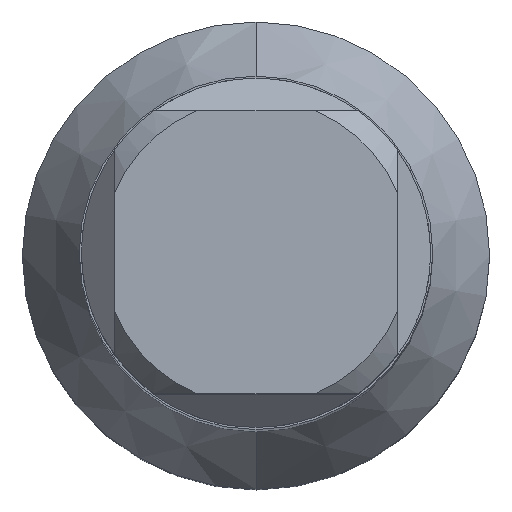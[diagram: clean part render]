
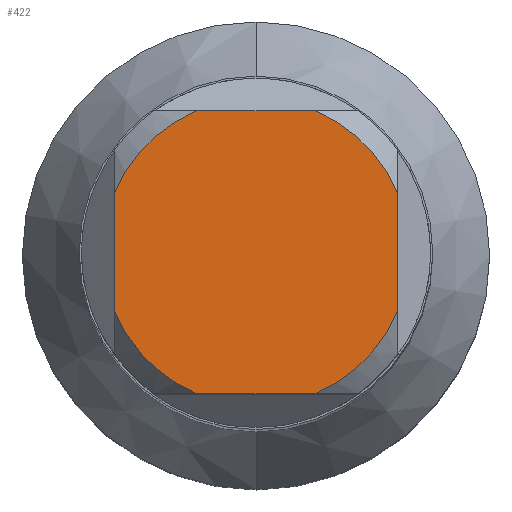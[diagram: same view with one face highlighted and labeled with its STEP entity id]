
A CAD part, top view. The second image highlights one B-rep face of the part: STEP entity #422.
In plain terms, the highlighted planar face has unit normal (0, 0, 1).
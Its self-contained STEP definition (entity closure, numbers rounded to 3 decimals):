
#11 = ORIENTED_EDGE ( 'NONE', *, *, #492, .F. ) ;
#32 = DIRECTION ( 'NONE',  ( 0., 0., -1. ) ) ;
#37 = DIRECTION ( 'NONE',  ( 0., 1., 0. ) ) ;
#45 = DIRECTION ( 'NONE',  ( 0., 1., 0. ) ) ;
#47 = CARTESIAN_POINT ( 'NONE',  ( 0., 0., 86. ) ) ;
#71 = AXIS2_PLACEMENT_3D ( 'NONE', #47, #32, #45 ) ;
#92 = VERTEX_POINT ( 'NONE', #573 ) ;
#104 = AXIS2_PLACEMENT_3D ( 'NONE', #435, #459, #853 ) ;
#105 = DIRECTION ( 'NONE',  ( 0., 0., -1. ) ) ;
#124 = CIRCLE ( 'NONE', #839, 8.675 ) ;
#141 = DIRECTION ( 'NONE',  ( 0., 1., 0. ) ) ;
#184 = ORIENTED_EDGE ( 'NONE', *, *, #880, .T. ) ;
#204 = CARTESIAN_POINT ( 'NONE',  ( 0., -8., 86. ) ) ;
#207 = VERTEX_POINT ( 'NONE', #1051 ) ;
#263 = DIRECTION ( 'NONE',  ( 1., 0., 0. ) ) ;
#312 = CARTESIAN_POINT ( 'NONE',  ( -3.355, -8., 86. ) ) ;
#326 = VERTEX_POINT ( 'NONE', #808 ) ;
#372 = PLANE ( 'NONE',  #104 ) ;
#377 = ORIENTED_EDGE ( 'NONE', *, *, #1007, .T. ) ;
#422 = ADVANCED_FACE ( 'NONE', ( #1339 ), #372, .F. ) ;
#435 = CARTESIAN_POINT ( 'NONE',  ( 0., 0., 86. ) ) ;
#459 = DIRECTION ( 'NONE',  ( 0., 0., -1. ) ) ;
#492 = EDGE_CURVE ( 'NONE', #92, #326, #571, .T. ) ;
#505 = CIRCLE ( 'NONE', #1318, 8.675 ) ;
#538 = VECTOR ( 'NONE', #141, 1000. ) ;
#540 = CARTESIAN_POINT ( 'NONE',  ( -8., 0., 86. ) ) ;
#571 = CIRCLE ( 'NONE', #71, 8.675 ) ;
#573 = CARTESIAN_POINT ( 'NONE',  ( 3.355, 8., 86. ) ) ;
#595 = DIRECTION ( 'NONE',  ( 0., -1., 0. ) ) ;
#603 = LINE ( 'NONE', #1126, #538 ) ;
#666 = CARTESIAN_POINT ( 'NONE',  ( -3.355, 8., 86. ) ) ;
#667 = EDGE_CURVE ( 'NONE', #92, #921, #1248, .T. ) ;
#673 = DIRECTION ( 'NONE',  ( 0., 1., 0. ) ) ;
#685 = CARTESIAN_POINT ( 'NONE',  ( 3.355, -8., 86. ) ) ;
#699 = ORIENTED_EDGE ( 'NONE', *, *, #667, .T. ) ;
#705 = EDGE_CURVE ( 'NONE', #906, #207, #1077, .T. ) ;
#749 = LINE ( 'NONE', #540, #1028 ) ;
#757 = AXIS2_PLACEMENT_3D ( 'NONE', #838, #1082, #673 ) ;
#808 = CARTESIAN_POINT ( 'NONE',  ( 8., 3.355, 86. ) ) ;
#838 = CARTESIAN_POINT ( 'NONE',  ( 0., 0., 86. ) ) ;
#839 = AXIS2_PLACEMENT_3D ( 'NONE', #994, #941, #992 ) ;
#853 = DIRECTION ( 'NONE',  ( 0., 1., 0. ) ) ;
#880 = EDGE_CURVE ( 'NONE', #906, #1000, #1213, .T. ) ;
#893 = EDGE_CURVE ( 'NONE', #1297, #326, #603, .T. ) ;
#906 = VERTEX_POINT ( 'NONE', #312 ) ;
#915 = VECTOR ( 'NONE', #263, 1000. ) ;
#921 = VERTEX_POINT ( 'NONE', #666 ) ;
#929 = ORIENTED_EDGE ( 'NONE', *, *, #893, .T. ) ;
#941 = DIRECTION ( 'NONE',  ( 0., 0., -1. ) ) ;
#943 = EDGE_CURVE ( 'NONE', #1091, #921, #124, .T. ) ;
#981 = ORIENTED_EDGE ( 'NONE', *, *, #705, .F. ) ;
#992 = DIRECTION ( 'NONE',  ( 0., 1., 0. ) ) ;
#994 = CARTESIAN_POINT ( 'NONE',  ( 0., 0., 86. ) ) ;
#1000 = VERTEX_POINT ( 'NONE', #685 ) ;
#1007 = EDGE_CURVE ( 'NONE', #1091, #207, #749, .T. ) ;
#1028 = VECTOR ( 'NONE', #595, 1000. ) ;
#1049 = CARTESIAN_POINT ( 'NONE',  ( 0., 8., 86. ) ) ;
#1051 = CARTESIAN_POINT ( 'NONE',  ( -8., -3.355, 86. ) ) ;
#1077 = CIRCLE ( 'NONE', #757, 8.675 ) ;
#1082 = DIRECTION ( 'NONE',  ( 0., 0., -1. ) ) ;
#1085 = ORIENTED_EDGE ( 'NONE', *, *, #943, .F. ) ;
#1088 = DIRECTION ( 'NONE',  ( -1., 0., 0. ) ) ;
#1091 = VERTEX_POINT ( 'NONE', #1156 ) ;
#1126 = CARTESIAN_POINT ( 'NONE',  ( 8., 0., 86. ) ) ;
#1136 = ORIENTED_EDGE ( 'NONE', *, *, #1306, .F. ) ;
#1156 = CARTESIAN_POINT ( 'NONE',  ( -8., 3.355, 86. ) ) ;
#1213 = LINE ( 'NONE', #204, #915 ) ;
#1224 = EDGE_LOOP ( 'NONE', ( #1136, #929, #11, #699, #1085, #377, #981, #184 ) ) ;
#1228 = VECTOR ( 'NONE', #1088, 1000. ) ;
#1248 = LINE ( 'NONE', #1049, #1228 ) ;
#1297 = VERTEX_POINT ( 'NONE', #1337 ) ;
#1306 = EDGE_CURVE ( 'NONE', #1297, #1000, #505, .T. ) ;
#1318 = AXIS2_PLACEMENT_3D ( 'NONE', #1370, #105, #37 ) ;
#1337 = CARTESIAN_POINT ( 'NONE',  ( 8., -3.355, 86. ) ) ;
#1339 = FACE_OUTER_BOUND ( 'NONE', #1224, .T. ) ;
#1370 = CARTESIAN_POINT ( 'NONE',  ( 0., 0., 86. ) ) ;
